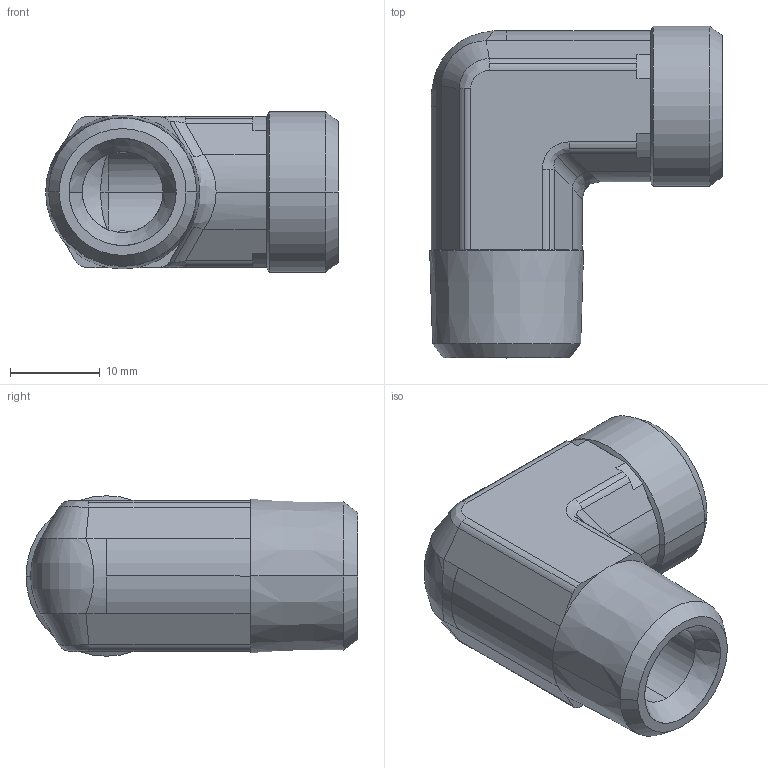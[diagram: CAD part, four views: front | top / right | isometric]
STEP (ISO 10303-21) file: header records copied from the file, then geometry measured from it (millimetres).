
FILE_DESCRIPTION((''),'2;1');
FILE_NAME('102007.stp','2007-10-30T16:29:21',(''),(''),'AutoCAD STEP 2000i','AutoCAD 2000i',', , ');
FILE_SCHEMA(('CONFIG_CONTROL_DESIGN'));
Length unit declared in the file: millimetre
Products named in the file (2): 102007.0; 3090#0
Assembly tree (1 placements, depth 2):
  102007.0
    3090#0
Bounding box: 32.56 x 36.92 x 17.85 mm (x, y, z)
Volume: 7950.7 mm3; surface area: 4626.7 mm2
Topology: 1 solids, 1 shells, 108 faces, 260 edges, 157 vertices
Faces by surface type: cylinder 44, plane 29, cone 21, bspline 14
Entity records: 4050 total; most frequent: CARTESIAN_POINT 1429, DIRECTION 549, ORIENTED_EDGE 520, EDGE_CURVE 260, AXIS2_PLACEMENT_3D 221, VERTEX_POINT 157, CIRCLE 115, EDGE_LOOP 113
